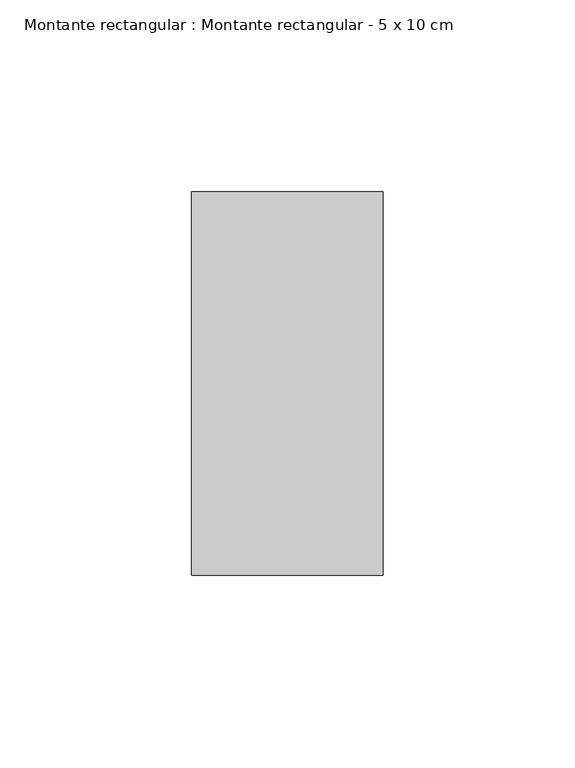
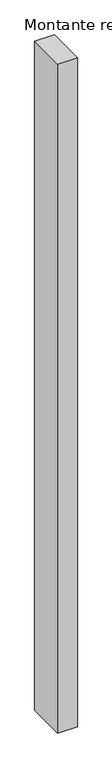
"""IFC4 building model written with IfcOpenShell, lengths in millimetres: member geometry, Montante rectangular : Montante rectangular - 5 x 10 cm."""

from ifc_helpers import new_model, si_unit, frame, origin, place, context, project, spatial, polyline, outline, extrude, source, transform, mapped, element, save


def montante_rectangular_montante_rectangular_5_x_10_cm_f7d27508(model_context):
    return source(origin(), model_context, "Body", "SweptSolid", [
        extrude(outline(polyline([(0.0, 50.0), (0.0, -50.0), (-50.0, -50.0), (-50.0, 50.0), (0.0, 50.0)])), frame((0.0, 0.0, -1787.618811), z_axis=(0.0, 0.0, 1.0), x_axis=(1.0, 0.0, 0.0)), (0.0, 0.0, 1.0), 1787.618811),
    ])


if __name__ == "__main__":
    model = new_model("IFC4")
    model_context = context("Model", 3, world=origin())
    ifc_project = project(units=[si_unit("LENGTHUNIT", "METRE", prefix="MILLI")], contexts=[model_context])
    site = spatial("IfcSite", under=ifc_project)
    building = spatial("IfcBuilding", under=site)
    placement = place(None, origin())
    montante_rectangular_montante_rectangular_5_x_10_cm_shape = montante_rectangular_montante_rectangular_5_x_10_cm_f7d27508(model_context)
    element("IfcMember", 1, ObjectType="Montante rectangular : Montante rectangular - 5 x 10 cm", at=placement, inside=building, context=model_context, shape_type="MappedRepresentation", body=[
        mapped(montante_rectangular_montante_rectangular_5_x_10_cm_shape, transform((0.0, 0.0, 0.0), x_axis=(1.0, 0.0, 0.0), y_axis=(0.0, 1.0, 0.0), z_axis=(0.0, 0.0, 1.0))),
    ])
    save(model, "model.ifc")
